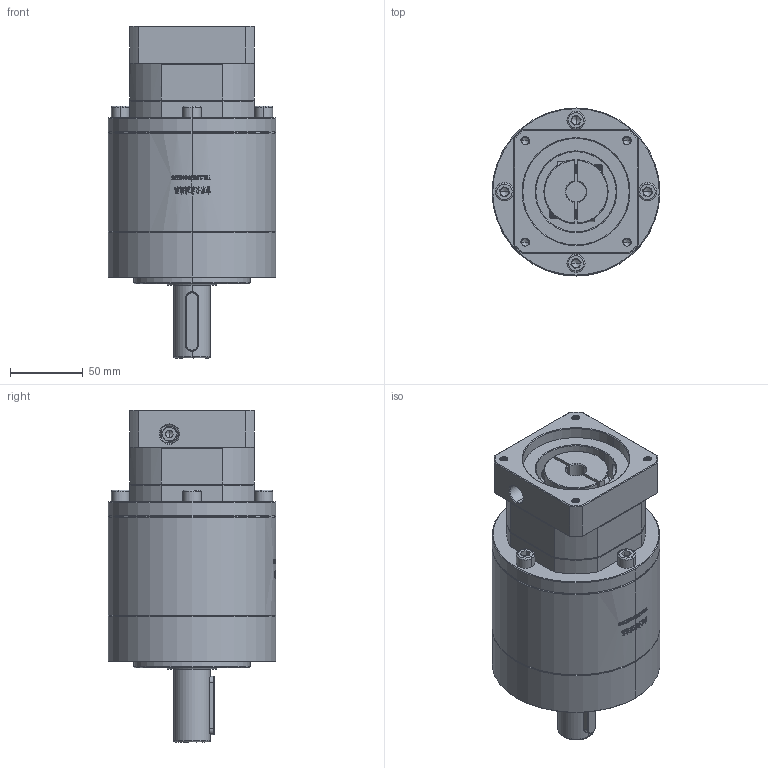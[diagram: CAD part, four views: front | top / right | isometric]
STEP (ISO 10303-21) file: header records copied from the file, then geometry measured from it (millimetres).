
FILE_DESCRIPTION (( 'STEP AP214' ), '1' );
FILE_NAME ('ZE120A-D25-L3-14-73-69.5X69.5-M6.step', '2023-03-13T06:49:47', ( '' ), ( '' ), 'SwSTEP 2.0', 'SolidWorks 2016', '' );
FILE_SCHEMA (( 'AUTOMOTIVE_DESIGN' ));
Length unit declared in the file: millimetre
Products named in the file (1): ZE120A-D25-L3-14-73-69.5X69.5-M6
Bounding box: 115 x 115 x 227.5 mm (x, y, z)
Volume: 1511839.1 mm3; surface area: 132039.7 mm2
Topology: 5 solids, 6 shells, 2021 faces, 5339 edges, 3409 vertices
Faces by surface type: plane 866, cylinder 500, bspline 333, cone 307, torus 15
Entity records: 116614 total; most frequent: CARTESIAN_POINT 48990, ORIENTED_EDGE 10602, DIRECTION 7936, EDGE_CURVE 5301, VERTEX_POINT 3409, VECTOR 2802, LINE 2802, AXIS2_PLACEMENT_3D 2567
